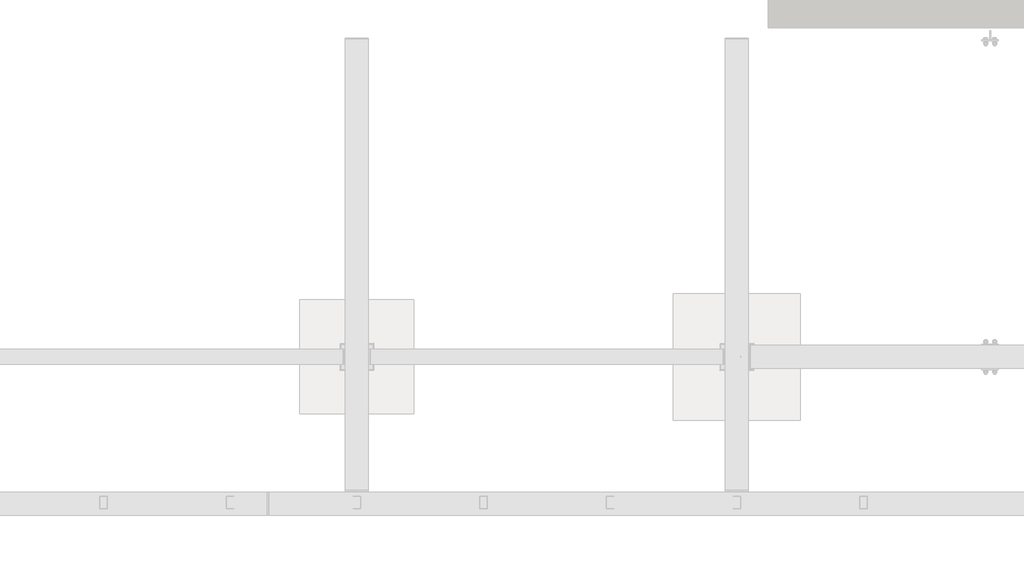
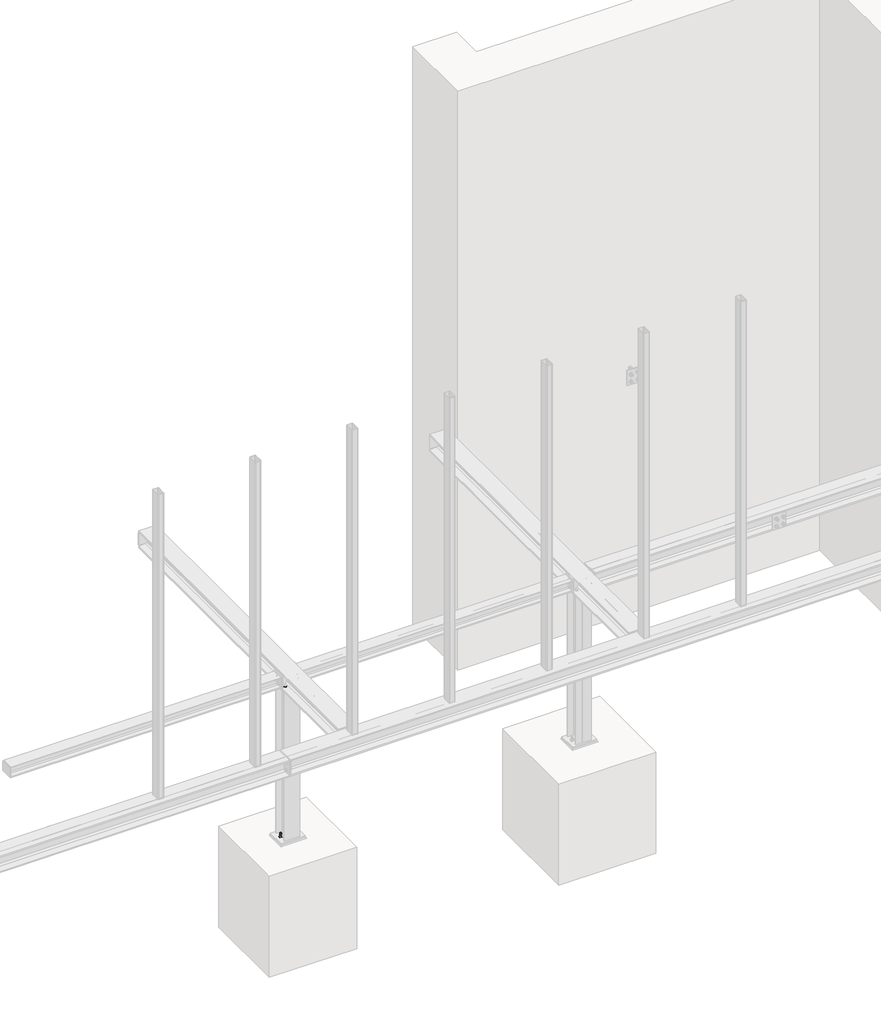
# One storey, part 24 of 31: 6 assemblies.
"""IFC4 building model written with IfcOpenShell, lengths in millimetres."""

from ifc_helpers import new_model, si_unit, point, frame, frame_2d, origin, place, context, project, spatial, polyline, circle_curve, trimmed, segment, composite_curve, outline, extrude, faceted_brep, element, save

model = new_model("IFC4")

# Units and contexts
model_context = context("Model", 3, world=origin())
ifc_project = project(units=[si_unit("LENGTHUNIT", "METRE", prefix="MILLI")], contexts=[model_context])

# Site, building, storey
site = spatial("IfcSite", under=ifc_project)
building = spatial("IfcBuilding", under=site)
storey = spatial("IfcBuildingStorey", under=building, Name="Základy", Elevation=-1200.0)

# Assemblies
placement = place(None, origin())
element("IfcElementAssembly", 1, at=placement, inside=storey, context=model_context, shape_type="SweptSolid", body=[
    extrude(outline(composite_curve([segment(polyline([(11073.6, 60.0), (11026.4, 60.0)]), True, "CONTINUOUS"), segment(trimmed(circle_curve(frame_2d((11026.4, 66.4)), 6.4), [point((11026.4, 60.0))], [point((11020.0, 66.4))], False, "CARTESIAN"), True, "CONTINUOUS"), segment(polyline([(11020.0, 66.4), (11020.0, 153.6)]), True, "CONTINUOUS"), segment(trimmed(circle_curve(frame_2d((11026.4, 153.6)), 6.4), [point((11020.0, 153.6))], [point((11026.4, 160.0))], False, "CARTESIAN"), True, "CONTINUOUS"), segment(polyline([(11026.4, 160.0), (11073.6, 160.0)]), True, "CONTINUOUS"), segment(trimmed(circle_curve(frame_2d((11073.6, 153.6)), 6.4), [point((11073.6, 160.0))], [point((11080.0, 153.6))], False, "CARTESIAN"), True, "CONTINUOUS"), segment(polyline([(11080.0, 153.6), (11080.0, 66.4)]), True, "CONTINUOUS"), segment(trimmed(circle_curve(frame_2d((11073.6, 66.4)), 6.4), [point((11080.0, 66.4))], [point((11073.6, 60.0))], False, "CARTESIAN"), True, "CONTINUOUS")], self_intersect=False), holes=[composite_curve([segment(trimmed(circle_curve(frame_2d((11073.6, 66.4)), 3.2), [point((11073.6, 63.2))], [point((11076.8, 66.4))], True, "CARTESIAN"), True, "CONTINUOUS"), segment(polyline([(11076.8, 66.4), (11076.8, 153.6)]), True, "CONTINUOUS"), segment(trimmed(circle_curve(frame_2d((11073.6, 153.6)), 3.2), [point((11076.8, 153.6))], [point((11073.6, 156.8))], True, "CARTESIAN"), True, "CONTINUOUS"), segment(polyline([(11073.6, 156.8), (11026.4, 156.8)]), True, "CONTINUOUS"), segment(trimmed(circle_curve(frame_2d((11026.4, 153.6)), 3.2), [point((11026.4, 156.8))], [point((11023.2, 153.6))], True, "CARTESIAN"), True, "CONTINUOUS"), segment(polyline([(11023.2, 153.6), (11023.2, 66.4)]), True, "CONTINUOUS"), segment(trimmed(circle_curve(frame_2d((11026.4, 66.4)), 3.2), [point((11023.2, 66.4))], [point((11026.4, 63.2))], True, "CARTESIAN"), True, "CONTINUOUS"), segment(polyline([(11026.4, 63.2), (11073.6, 63.2)]), True, "CONTINUOUS")], self_intersect=False)]), frame((0.0, 0.0, -160.0), z_axis=(0.0, 0.0, 1.0), x_axis=(1.0, 0.0, 0.0)), (0.0, 0.0, 1.0), 3320.0),
])
element("IfcElementAssembly", 2, at=placement, inside=storey, context=model_context, shape_type="SweptSolid", body=[
    extrude(outline(composite_curve([segment(polyline([(10073.6, 60.0), (10026.4, 60.0)]), True, "CONTINUOUS"), segment(trimmed(circle_curve(frame_2d((10026.4, 66.4)), 6.4), [point((10026.4, 60.0))], [point((10020.0, 66.4))], False, "CARTESIAN"), True, "CONTINUOUS"), segment(polyline([(10020.0, 66.4), (10020.0, 153.6)]), True, "CONTINUOUS"), segment(trimmed(circle_curve(frame_2d((10026.4, 153.6)), 6.4), [point((10020.0, 153.6))], [point((10026.4, 160.0))], False, "CARTESIAN"), True, "CONTINUOUS"), segment(polyline([(10026.4, 160.0), (10073.6, 160.0)]), True, "CONTINUOUS"), segment(trimmed(circle_curve(frame_2d((10073.6, 153.6)), 6.4), [point((10073.6, 160.0))], [point((10080.0, 153.6))], False, "CARTESIAN"), True, "CONTINUOUS"), segment(polyline([(10080.0, 153.6), (10080.0, 66.4)]), True, "CONTINUOUS"), segment(trimmed(circle_curve(frame_2d((10073.6, 66.4)), 6.4), [point((10080.0, 66.4))], [point((10073.6, 60.0))], False, "CARTESIAN"), True, "CONTINUOUS")], self_intersect=False), holes=[composite_curve([segment(trimmed(circle_curve(frame_2d((10073.6, 66.4)), 3.2), [point((10073.6, 63.2))], [point((10076.8, 66.4))], True, "CARTESIAN"), True, "CONTINUOUS"), segment(polyline([(10076.8, 66.4), (10076.8, 153.6)]), True, "CONTINUOUS"), segment(trimmed(circle_curve(frame_2d((10073.6, 153.6)), 3.2), [point((10076.8, 153.6))], [point((10073.6, 156.8))], True, "CARTESIAN"), True, "CONTINUOUS"), segment(polyline([(10073.6, 156.8), (10026.4, 156.8)]), True, "CONTINUOUS"), segment(trimmed(circle_curve(frame_2d((10026.4, 153.6)), 3.2), [point((10026.4, 156.8))], [point((10023.2, 153.6))], True, "CARTESIAN"), True, "CONTINUOUS"), segment(polyline([(10023.2, 153.6), (10023.2, 66.4)]), True, "CONTINUOUS"), segment(trimmed(circle_curve(frame_2d((10026.4, 66.4)), 3.2), [point((10023.2, 66.4))], [point((10026.4, 63.2))], True, "CARTESIAN"), True, "CONTINUOUS"), segment(polyline([(10026.4, 63.2), (10073.6, 63.2)]), True, "CONTINUOUS")], self_intersect=False)]), frame((0.0, 0.0, -160.0), z_axis=(0.0, 0.0, 1.0), x_axis=(1.0, 0.0, 0.0)), (0.0, 0.0, 1.0), 3320.0),
])
element("IfcElementAssembly", 3, at=placement, inside=storey, context=model_context, shape_type="SweptSolid", body=[
    extrude(outline(composite_curve([segment(polyline([(1200.0, -193.0), (1320.0, -193.0), (1320.0, -201.0), (1274.5, -201.0)]), True, "CONTINUOUS"), segment(trimmed(circle_curve(frame_2d((1274.5, -213.0)), 12.0), [point((1274.5, -201.0))], [point((1262.5, -213.0))], True, "CARTESIAN"), True, "CONTINUOUS"), segment(polyline([(1262.5, -213.0), (1262.5, -287.0)]), True, "CONTINUOUS"), segment(trimmed(circle_curve(frame_2d((1274.5, -287.0)), 12.0), [point((1262.5, -287.0))], [point((1274.5, -299.0))], True, "CARTESIAN"), True, "CONTINUOUS"), segment(polyline([(1274.5, -299.0), (1320.0, -299.0), (1320.0, -307.0), (1200.0, -307.0), (1200.0, -299.0), (1245.5, -299.0)]), True, "CONTINUOUS"), segment(trimmed(circle_curve(frame_2d((1245.5, -287.0)), 12.0), [point((1245.5, -299.0))], [point((1257.5, -287.0))], True, "CARTESIAN"), True, "CONTINUOUS"), segment(polyline([(1257.5, -287.0), (1257.5, -213.0)]), True, "CONTINUOUS"), segment(trimmed(circle_curve(frame_2d((1245.5, -213.0)), 12.0), [point((1257.5, -213.0))], [point((1245.5, -201.0))], True, "CARTESIAN"), True, "CONTINUOUS"), segment(polyline([(1245.5, -201.0), (1200.0, -201.0), (1200.0, -193.0)]), True, "CONTINUOUS")], self_intersect=False)), frame((9160.0, 0.0, 0.0), z_axis=(1.0, 0.0, 0.0), x_axis=(0.0, 1.0, 0.0)), (0.0, 0.0, 1.0), 2780.0),
    extrude(outline(polyline([(11940.0, 1200.0), (11940.0, 1320.0), (11950.0, 1320.0), (11950.0, 1200.0), (11940.0, 1200.0)])), frame((0.0, 0.0, -299.0), z_axis=(0.0, 0.0, 1.0), x_axis=(1.0, 0.0, 0.0)), (0.0, 0.0, 1.0), 98.0),
    extrude(outline(polyline([(9150.0, 1200.0), (9150.0, 1320.0), (9160.0, 1320.0), (9160.0, 1200.0), (9150.0, 1200.0)])), frame((0.0, 0.0, -299.0), z_axis=(0.0, 0.0, 1.0), x_axis=(1.0, 0.0, 0.0)), (0.0, 0.0, 1.0), 98.0),
])
element("IfcElementAssembly", 4, at=placement, inside=storey, context=model_context, shape_type="SweptSolid", body=[
    extrude(outline(composite_curve([segment(polyline([(9130.0, 1184.0), (8970.0, 1184.0), (8970.0, 1193.0), (9032.0, 1193.0)]), True, "CONTINUOUS"), segment(trimmed(circle_curve(frame_2d((9032.0, 1208.0)), 15.0), [point((9032.0, 1193.0))], [point((9047.0, 1208.0))], True, "CARTESIAN"), True, "CONTINUOUS"), segment(polyline([(9047.0, 1208.0), (9047.0, 1312.0)]), True, "CONTINUOUS"), segment(trimmed(circle_curve(frame_2d((9032.0, 1312.0)), 15.0), [point((9047.0, 1312.0))], [point((9032.0, 1327.0))], True, "CARTESIAN"), True, "CONTINUOUS"), segment(polyline([(9032.0, 1327.0), (8970.0, 1327.0), (8970.0, 1336.0), (9130.0, 1336.0), (9130.0, 1327.0), (9068.0, 1327.0)]), True, "CONTINUOUS"), segment(trimmed(circle_curve(frame_2d((9068.0, 1312.0)), 15.0), [point((9068.0, 1327.0))], [point((9053.0, 1312.0))], True, "CARTESIAN"), True, "CONTINUOUS"), segment(polyline([(9053.0, 1312.0), (9053.0, 1208.0)]), True, "CONTINUOUS"), segment(trimmed(circle_curve(frame_2d((9068.0, 1208.0)), 15.0), [point((9053.0, 1208.0))], [point((9068.0, 1193.0))], True, "CARTESIAN"), True, "CONTINUOUS"), segment(polyline([(9068.0, 1193.0), (9130.0, 1193.0), (9130.0, 1184.0)]), True, "CONTINUOUS")], self_intersect=False)), frame((0.0, 0.0, -1975.0), z_axis=(0.0, 0.0, 1.0), x_axis=(1.0, 0.0, 0.0)), (0.0, 0.0, 1.0), 1625.0),
    extrude(outline(polyline([(9175.0, 1356.0), (9175.0, 1164.0), (8925.0, 1164.0), (8925.0, 1356.0), (9175.0, 1356.0)])), frame((0.0, 0.0, -1990.0), z_axis=(0.0, 0.0, 1.0), x_axis=(1.0, 0.0, 0.0)), (0.0, 0.0, 1.0), 15.0),
    extrude(outline(polyline([(9140.0, 1346.0), (9140.0, 1174.0), (8960.0, 1174.0), (8960.0, 1346.0), (9140.0, 1346.0)])), frame((0.0, 0.0, -350.0), z_axis=(0.0, 0.0, 1.0), x_axis=(1.0, 0.0, 0.0)), (0.0, 0.0, 1.0), 10.0),
    extrude(outline(polyline([(8982.7364934, 1260.0), (8978.8682467, 1253.3000002), (8971.1317533, 1253.3000002), (8967.2635066, 1260.0), (8971.1317533, 1266.6999998), (8978.8682467, 1266.6999998), (8982.7364934, 1260.0)])), frame((0.0, 0.0, -2122.0), z_axis=(0.0, 0.0, 1.0), x_axis=(1.0, 0.0, 0.0)), (0.0, 0.0, 1.0), 132.0),
    extrude(outline(composite_curve([segment(trimmed(circle_curve(frame_2d((8975.0, 1260.0)), 8.0), [point((8983.0, 1260.0))], [point((8967.0, 1260.0))], False, "CARTESIAN"), True, "CONTINUOUS"), segment(trimmed(circle_curve(frame_2d((8975.0, 1260.0)), 8.0), [point((8967.0, 1260.0))], [point((8983.0, 1260.0))], False, "CARTESIAN"), True, "CONTINUOUS")], self_intersect=False)), frame((0.0, 0.0, -1990.0), z_axis=(0.0, 0.0, 1.0), x_axis=(1.0, 0.0, 0.0)), (0.0, 0.0, 1.0), 58.0),
    extrude(outline(composite_curve([segment(trimmed(circle_curve(frame_2d((8975.0, 1260.0)), 15.0), [point((8990.0, 1260.0))], [point((8960.0, 1260.0))], False, "CARTESIAN"), True, "CONTINUOUS"), segment(trimmed(circle_curve(frame_2d((8975.0, 1260.0)), 15.0), [point((8960.0, 1260.0))], [point((8990.0, 1260.0))], False, "CARTESIAN"), True, "CONTINUOUS")], self_intersect=False)), frame((0.0, 0.0, -1975.0), z_axis=(0.0, 0.0, 1.0), x_axis=(1.0, 0.0, 0.0)), (0.0, 0.0, 1.0), 3.0),
    extrude(outline(polyline([(8990.4441197, 1260.0), (8982.7220599, 1246.625), (8967.2779401, 1246.625), (8959.5558803, 1260.0), (8967.2779401, 1273.375), (8982.7220599, 1273.375), (8990.4441197, 1260.0)])), frame((0.0, 0.0, -1972.0), z_axis=(0.0, 0.0, 1.0), x_axis=(1.0, 0.0, 0.0)), (0.0, 0.0, 1.0), 13.0),
    extrude(outline(composite_curve([segment(trimmed(circle_curve(frame_2d((8975.0, 1260.0)), 9.0), [point((8984.0, 1260.0))], [point((8966.0, 1260.0))], False, "CARTESIAN"), True, "CONTINUOUS"), segment(trimmed(circle_curve(frame_2d((8975.0, 1260.0)), 9.0), [point((8966.0, 1260.0))], [point((8984.0, 1260.0))], False, "CARTESIAN"), True, "CONTINUOUS")], self_intersect=False)), frame((0.0, 0.0, -1990.0), z_axis=(0.0, 0.0, 1.0), x_axis=(1.0, 0.0, 0.0)), (0.0, 0.0, 1.0), 15.1),
    extrude(outline(polyline([(9132.7364934, 1260.0), (9128.8682467, 1253.3000002), (9121.1317533, 1253.3000002), (9117.2635066, 1260.0), (9121.1317533, 1266.6999998), (9128.8682467, 1266.6999998), (9132.7364934, 1260.0)])), frame((0.0, 0.0, -2122.0), z_axis=(0.0, 0.0, 1.0), x_axis=(1.0, 0.0, 0.0)), (0.0, 0.0, 1.0), 132.0),
    extrude(outline(composite_curve([segment(trimmed(circle_curve(frame_2d((9125.0, 1260.0)), 8.0), [point((9133.0, 1260.0))], [point((9117.0, 1260.0))], False, "CARTESIAN"), True, "CONTINUOUS"), segment(trimmed(circle_curve(frame_2d((9125.0, 1260.0)), 8.0), [point((9117.0, 1260.0))], [point((9133.0, 1260.0))], False, "CARTESIAN"), True, "CONTINUOUS")], self_intersect=False)), frame((0.0, 0.0, -1990.0), z_axis=(0.0, 0.0, 1.0), x_axis=(1.0, 0.0, 0.0)), (0.0, 0.0, 1.0), 58.0),
    extrude(outline(composite_curve([segment(trimmed(circle_curve(frame_2d((9125.0, 1260.0)), 15.0), [point((9140.0, 1260.0))], [point((9110.0, 1260.0))], False, "CARTESIAN"), True, "CONTINUOUS"), segment(trimmed(circle_curve(frame_2d((9125.0, 1260.0)), 15.0), [point((9110.0, 1260.0))], [point((9140.0, 1260.0))], False, "CARTESIAN"), True, "CONTINUOUS")], self_intersect=False)), frame((0.0, 0.0, -1975.0), z_axis=(0.0, 0.0, 1.0), x_axis=(1.0, 0.0, 0.0)), (0.0, 0.0, 1.0), 3.0),
    extrude(outline(polyline([(9140.4441197, 1260.0), (9132.7220599, 1246.625), (9117.2779401, 1246.625), (9109.5558803, 1260.0), (9117.2779401, 1273.375), (9132.7220599, 1273.375), (9140.4441197, 1260.0)])), frame((0.0, 0.0, -1972.0), z_axis=(0.0, 0.0, 1.0), x_axis=(1.0, 0.0, 0.0)), (0.0, 0.0, 1.0), 13.0),
    extrude(outline(composite_curve([segment(trimmed(circle_curve(frame_2d((9125.0, 1260.0)), 9.0), [point((9134.0, 1260.0))], [point((9116.0, 1260.0))], False, "CARTESIAN"), True, "CONTINUOUS"), segment(trimmed(circle_curve(frame_2d((9125.0, 1260.0)), 9.0), [point((9116.0, 1260.0))], [point((9134.0, 1260.0))], False, "CARTESIAN"), True, "CONTINUOUS")], self_intersect=False)), frame((0.0, 0.0, -1990.0), z_axis=(0.0, 0.0, 1.0), x_axis=(1.0, 0.0, 0.0)), (0.0, 0.0, 1.0), 15.1),
    extrude(outline(composite_curve([segment(trimmed(circle_curve(frame_2d((9000.0, 1220.0)), 6.5), [point((9006.5, 1220.0))], [point((8993.5, 1220.0))], False, "CARTESIAN"), True, "CONTINUOUS"), segment(trimmed(circle_curve(frame_2d((9000.0, 1220.0)), 6.5), [point((8993.5, 1220.0))], [point((9006.5, 1220.0))], False, "CARTESIAN"), True, "CONTINUOUS")], self_intersect=False)), frame((0.0, 0.0, -350.0), z_axis=(0.0, 0.0, 1.0), x_axis=(1.0, 0.0, 0.0)), (0.0, 0.0, 1.0), 10.1),
    extrude(outline(polyline([(9010.3923048, 1220.0), (9005.1961524, 1211.0), (8994.8038476, 1211.0), (8989.6076952, 1220.0), (8994.8038476, 1229.0), (9005.1961524, 1229.0), (9010.3923048, 1220.0)])), frame((0.0, 0.0, -323.5), z_axis=(0.0, 0.0, 1.0), x_axis=(1.0, 0.0, 0.0)), (0.0, 0.0, 1.0), 7.5),
    extrude(outline(composite_curve([segment(trimmed(circle_curve(frame_2d((9000.0, 1220.0)), 6.0), [point((9006.0, 1220.0))], [point((8994.0, 1220.0))], False, "CARTESIAN"), True, "CONTINUOUS"), segment(trimmed(circle_curve(frame_2d((9000.0, 1220.0)), 6.0), [point((8994.0, 1220.0))], [point((9006.0, 1220.0))], False, "CARTESIAN"), True, "CONTINUOUS")], self_intersect=False)), frame((0.0, 0.0, -368.5), z_axis=(0.0, 0.0, 1.0), x_axis=(1.0, 0.0, 0.0)), (0.0, 0.0, 1.0), 45.0),
    extrude(outline(composite_curve([segment(trimmed(circle_curve(frame_2d((9000.0, 1220.0)), 12.0), [point((9012.0, 1220.0))], [point((8988.0, 1220.0))], False, "CARTESIAN"), True, "CONTINUOUS"), segment(trimmed(circle_curve(frame_2d((9000.0, 1220.0)), 12.0), [point((8988.0, 1220.0))], [point((9012.0, 1220.0))], False, "CARTESIAN"), True, "CONTINUOUS")], self_intersect=False)), frame((0.0, 0.0, -326.0), z_axis=(0.0, 0.0, 1.0), x_axis=(1.0, 0.0, 0.0)), (0.0, 0.0, 1.0), 2.5),
    extrude(outline(composite_curve([segment(trimmed(circle_curve(frame_2d((9000.0, 1220.0)), 12.0), [point((9012.0, 1220.0))], [point((8988.0, 1220.0))], False, "CARTESIAN"), True, "CONTINUOUS"), segment(trimmed(circle_curve(frame_2d((9000.0, 1220.0)), 12.0), [point((8988.0, 1220.0))], [point((9012.0, 1220.0))], False, "CARTESIAN"), True, "CONTINUOUS")], self_intersect=False)), frame((0.0, 0.0, -352.5), z_axis=(0.0, 0.0, 1.0), x_axis=(1.0, 0.0, 0.0)), (0.0, 0.0, 1.0), 2.5),
    extrude(outline(polyline([(9010.9696551, 1220.0), (9005.4848276, 1210.5), (8994.5151724, 1210.5), (8989.0303449, 1220.0), (8994.5151724, 1229.5), (9005.4848276, 1229.5), (9010.9696551, 1220.0)])), frame((0.0, 0.0, -362.5), z_axis=(0.0, 0.0, 1.0), x_axis=(1.0, 0.0, 0.0)), (0.0, 0.0, 1.0), 10.0),
    extrude(outline(composite_curve([segment(trimmed(circle_curve(frame_2d((9000.0, 1220.0)), 6.5), [point((9006.5, 1220.0))], [point((8993.5, 1220.0))], False, "CARTESIAN"), True, "CONTINUOUS"), segment(trimmed(circle_curve(frame_2d((9000.0, 1220.0)), 6.5), [point((8993.5, 1220.0))], [point((9006.5, 1220.0))], False, "CARTESIAN"), True, "CONTINUOUS")], self_intersect=False)), frame((0.0, 0.0, -340.1), z_axis=(0.0, 0.0, 1.0), x_axis=(1.0, 0.0, 0.0)), (0.0, 0.0, 1.0), 14.0),
    extrude(outline(composite_curve([segment(trimmed(circle_curve(frame_2d((9100.0, 1220.0)), 6.5), [point((9106.5, 1220.0))], [point((9093.5, 1220.0))], False, "CARTESIAN"), True, "CONTINUOUS"), segment(trimmed(circle_curve(frame_2d((9100.0, 1220.0)), 6.5), [point((9093.5, 1220.0))], [point((9106.5, 1220.0))], False, "CARTESIAN"), True, "CONTINUOUS")], self_intersect=False)), frame((0.0, 0.0, -350.0), z_axis=(0.0, 0.0, 1.0), x_axis=(1.0, 0.0, 0.0)), (0.0, 0.0, 1.0), 10.1),
    extrude(outline(polyline([(9110.3923048, 1220.0), (9105.1961524, 1211.0), (9094.8038476, 1211.0), (9089.6076952, 1220.0), (9094.8038476, 1229.0), (9105.1961524, 1229.0), (9110.3923048, 1220.0)])), frame((0.0, 0.0, -323.5), z_axis=(0.0, 0.0, 1.0), x_axis=(1.0, 0.0, 0.0)), (0.0, 0.0, 1.0), 7.5),
    extrude(outline(composite_curve([segment(trimmed(circle_curve(frame_2d((9100.0, 1220.0)), 6.0), [point((9106.0, 1220.0))], [point((9094.0, 1220.0))], False, "CARTESIAN"), True, "CONTINUOUS"), segment(trimmed(circle_curve(frame_2d((9100.0, 1220.0)), 6.0), [point((9094.0, 1220.0))], [point((9106.0, 1220.0))], False, "CARTESIAN"), True, "CONTINUOUS")], self_intersect=False)), frame((0.0, 0.0, -368.5), z_axis=(0.0, 0.0, 1.0), x_axis=(1.0, 0.0, 0.0)), (0.0, 0.0, 1.0), 45.0),
    extrude(outline(composite_curve([segment(trimmed(circle_curve(frame_2d((9100.0, 1220.0)), 12.0), [point((9112.0, 1220.0))], [point((9088.0, 1220.0))], False, "CARTESIAN"), True, "CONTINUOUS"), segment(trimmed(circle_curve(frame_2d((9100.0, 1220.0)), 12.0), [point((9088.0, 1220.0))], [point((9112.0, 1220.0))], False, "CARTESIAN"), True, "CONTINUOUS")], self_intersect=False)), frame((0.0, 0.0, -326.0), z_axis=(0.0, 0.0, 1.0), x_axis=(1.0, 0.0, 0.0)), (0.0, 0.0, 1.0), 2.5),
    extrude(outline(composite_curve([segment(trimmed(circle_curve(frame_2d((9100.0, 1220.0)), 12.0), [point((9112.0, 1220.0))], [point((9088.0, 1220.0))], False, "CARTESIAN"), True, "CONTINUOUS"), segment(trimmed(circle_curve(frame_2d((9100.0, 1220.0)), 12.0), [point((9088.0, 1220.0))], [point((9112.0, 1220.0))], False, "CARTESIAN"), True, "CONTINUOUS")], self_intersect=False)), frame((0.0, 0.0, -352.5), z_axis=(0.0, 0.0, 1.0), x_axis=(1.0, 0.0, 0.0)), (0.0, 0.0, 1.0), 2.5),
    extrude(outline(polyline([(9110.9696551, 1220.0), (9105.4848276, 1210.5), (9094.5151724, 1210.5), (9089.0303449, 1220.0), (9094.5151724, 1229.5), (9105.4848276, 1229.5), (9110.9696551, 1220.0)])), frame((0.0, 0.0, -362.5), z_axis=(0.0, 0.0, 1.0), x_axis=(1.0, 0.0, 0.0)), (0.0, 0.0, 1.0), 10.0),
    extrude(outline(composite_curve([segment(trimmed(circle_curve(frame_2d((9100.0, 1220.0)), 6.5), [point((9106.5, 1220.0))], [point((9093.5, 1220.0))], False, "CARTESIAN"), True, "CONTINUOUS"), segment(trimmed(circle_curve(frame_2d((9100.0, 1220.0)), 6.5), [point((9093.5, 1220.0))], [point((9106.5, 1220.0))], False, "CARTESIAN"), True, "CONTINUOUS")], self_intersect=False)), frame((0.0, 0.0, -340.1), z_axis=(0.0, 0.0, 1.0), x_axis=(1.0, 0.0, 0.0)), (0.0, 0.0, 1.0), 14.0),
    extrude(outline(composite_curve([segment(trimmed(circle_curve(frame_2d((9000.0, 1300.0)), 6.5), [point((9006.5, 1300.0))], [point((8993.5, 1300.0))], False, "CARTESIAN"), True, "CONTINUOUS"), segment(trimmed(circle_curve(frame_2d((9000.0, 1300.0)), 6.5), [point((8993.5, 1300.0))], [point((9006.5, 1300.0))], False, "CARTESIAN"), True, "CONTINUOUS")], self_intersect=False)), frame((0.0, 0.0, -350.0), z_axis=(0.0, 0.0, 1.0), x_axis=(1.0, 0.0, 0.0)), (0.0, 0.0, 1.0), 10.1),
    extrude(outline(polyline([(9010.3923048, 1300.0), (9005.1961524, 1291.0), (8994.8038476, 1291.0), (8989.6076952, 1300.0), (8994.8038476, 1309.0), (9005.1961524, 1309.0), (9010.3923048, 1300.0)])), frame((0.0, 0.0, -323.5), z_axis=(0.0, 0.0, 1.0), x_axis=(1.0, 0.0, 0.0)), (0.0, 0.0, 1.0), 7.5),
    extrude(outline(composite_curve([segment(trimmed(circle_curve(frame_2d((9000.0, 1300.0)), 6.0), [point((9006.0, 1300.0))], [point((8994.0, 1300.0))], False, "CARTESIAN"), True, "CONTINUOUS"), segment(trimmed(circle_curve(frame_2d((9000.0, 1300.0)), 6.0), [point((8994.0, 1300.0))], [point((9006.0, 1300.0))], False, "CARTESIAN"), True, "CONTINUOUS")], self_intersect=False)), frame((0.0, 0.0, -368.5), z_axis=(0.0, 0.0, 1.0), x_axis=(1.0, 0.0, 0.0)), (0.0, 0.0, 1.0), 45.0),
    extrude(outline(composite_curve([segment(trimmed(circle_curve(frame_2d((9000.0, 1300.0)), 12.0), [point((9012.0, 1300.0))], [point((8988.0, 1300.0))], False, "CARTESIAN"), True, "CONTINUOUS"), segment(trimmed(circle_curve(frame_2d((9000.0, 1300.0)), 12.0), [point((8988.0, 1300.0))], [point((9012.0, 1300.0))], False, "CARTESIAN"), True, "CONTINUOUS")], self_intersect=False)), frame((0.0, 0.0, -326.0), z_axis=(0.0, 0.0, 1.0), x_axis=(1.0, 0.0, 0.0)), (0.0, 0.0, 1.0), 2.5),
    extrude(outline(composite_curve([segment(trimmed(circle_curve(frame_2d((9000.0, 1300.0)), 12.0), [point((9012.0, 1300.0))], [point((8988.0, 1300.0))], False, "CARTESIAN"), True, "CONTINUOUS"), segment(trimmed(circle_curve(frame_2d((9000.0, 1300.0)), 12.0), [point((8988.0, 1300.0))], [point((9012.0, 1300.0))], False, "CARTESIAN"), True, "CONTINUOUS")], self_intersect=False)), frame((0.0, 0.0, -352.5), z_axis=(0.0, 0.0, 1.0), x_axis=(1.0, 0.0, 0.0)), (0.0, 0.0, 1.0), 2.5),
    extrude(outline(polyline([(9010.9696551, 1300.0), (9005.4848276, 1290.5), (8994.5151724, 1290.5), (8989.0303449, 1300.0), (8994.5151724, 1309.5), (9005.4848276, 1309.5), (9010.9696551, 1300.0)])), frame((0.0, 0.0, -362.5), z_axis=(0.0, 0.0, 1.0), x_axis=(1.0, 0.0, 0.0)), (0.0, 0.0, 1.0), 10.0),
    extrude(outline(composite_curve([segment(trimmed(circle_curve(frame_2d((9000.0, 1300.0)), 6.5), [point((9006.5, 1300.0))], [point((8993.5, 1300.0))], False, "CARTESIAN"), True, "CONTINUOUS"), segment(trimmed(circle_curve(frame_2d((9000.0, 1300.0)), 6.5), [point((8993.5, 1300.0))], [point((9006.5, 1300.0))], False, "CARTESIAN"), True, "CONTINUOUS")], self_intersect=False)), frame((0.0, 0.0, -340.1), z_axis=(0.0, 0.0, 1.0), x_axis=(1.0, 0.0, 0.0)), (0.0, 0.0, 1.0), 14.0),
    extrude(outline(composite_curve([segment(trimmed(circle_curve(frame_2d((9100.0, 1300.0)), 6.5), [point((9106.5, 1300.0))], [point((9093.5, 1300.0))], False, "CARTESIAN"), True, "CONTINUOUS"), segment(trimmed(circle_curve(frame_2d((9100.0, 1300.0)), 6.5), [point((9093.5, 1300.0))], [point((9106.5, 1300.0))], False, "CARTESIAN"), True, "CONTINUOUS")], self_intersect=False)), frame((0.0, 0.0, -350.0), z_axis=(0.0, 0.0, 1.0), x_axis=(1.0, 0.0, 0.0)), (0.0, 0.0, 1.0), 10.1),
    extrude(outline(polyline([(9110.3923048, 1300.0), (9105.1961524, 1291.0), (9094.8038476, 1291.0), (9089.6076952, 1300.0), (9094.8038476, 1309.0), (9105.1961524, 1309.0), (9110.3923048, 1300.0)])), frame((0.0, 0.0, -323.5), z_axis=(0.0, 0.0, 1.0), x_axis=(1.0, 0.0, 0.0)), (0.0, 0.0, 1.0), 7.5),
    extrude(outline(composite_curve([segment(trimmed(circle_curve(frame_2d((9100.0, 1300.0)), 6.0), [point((9106.0, 1300.0))], [point((9094.0, 1300.0))], False, "CARTESIAN"), True, "CONTINUOUS"), segment(trimmed(circle_curve(frame_2d((9100.0, 1300.0)), 6.0), [point((9094.0, 1300.0))], [point((9106.0, 1300.0))], False, "CARTESIAN"), True, "CONTINUOUS")], self_intersect=False)), frame((0.0, 0.0, -368.5), z_axis=(0.0, 0.0, 1.0), x_axis=(1.0, 0.0, 0.0)), (0.0, 0.0, 1.0), 45.0),
    extrude(outline(composite_curve([segment(trimmed(circle_curve(frame_2d((9100.0, 1300.0)), 12.0), [point((9112.0, 1300.0))], [point((9088.0, 1300.0))], False, "CARTESIAN"), True, "CONTINUOUS"), segment(trimmed(circle_curve(frame_2d((9100.0, 1300.0)), 12.0), [point((9088.0, 1300.0))], [point((9112.0, 1300.0))], False, "CARTESIAN"), True, "CONTINUOUS")], self_intersect=False)), frame((0.0, 0.0, -326.0), z_axis=(0.0, 0.0, 1.0), x_axis=(1.0, 0.0, 0.0)), (0.0, 0.0, 1.0), 2.5),
    extrude(outline(composite_curve([segment(trimmed(circle_curve(frame_2d((9100.0, 1300.0)), 12.0), [point((9112.0, 1300.0))], [point((9088.0, 1300.0))], False, "CARTESIAN"), True, "CONTINUOUS"), segment(trimmed(circle_curve(frame_2d((9100.0, 1300.0)), 12.0), [point((9088.0, 1300.0))], [point((9112.0, 1300.0))], False, "CARTESIAN"), True, "CONTINUOUS")], self_intersect=False)), frame((0.0, 0.0, -352.5), z_axis=(0.0, 0.0, 1.0), x_axis=(1.0, 0.0, 0.0)), (0.0, 0.0, 1.0), 2.5),
    extrude(outline(polyline([(9110.9696551, 1300.0), (9105.4848276, 1290.5), (9094.5151724, 1290.5), (9089.0303449, 1300.0), (9094.5151724, 1309.5), (9105.4848276, 1309.5), (9110.9696551, 1300.0)])), frame((0.0, 0.0, -362.5), z_axis=(0.0, 0.0, 1.0), x_axis=(1.0, 0.0, 0.0)), (0.0, 0.0, 1.0), 10.0),
    extrude(outline(composite_curve([segment(trimmed(circle_curve(frame_2d((9100.0, 1300.0)), 6.5), [point((9106.5, 1300.0))], [point((9093.5, 1300.0))], False, "CARTESIAN"), True, "CONTINUOUS"), segment(trimmed(circle_curve(frame_2d((9100.0, 1300.0)), 6.5), [point((9093.5, 1300.0))], [point((9106.5, 1300.0))], False, "CARTESIAN"), True, "CONTINUOUS")], self_intersect=False)), frame((0.0, 0.0, -340.1), z_axis=(0.0, 0.0, 1.0), x_axis=(1.0, 0.0, 0.0)), (0.0, 0.0, 1.0), 14.0),
])
element("IfcElementAssembly", 5, at=placement, inside=storey, context=model_context, shape_type="SweptSolid", body=[
    extrude(outline(polyline([(9500.0, 1710.0), (9500.0, 810.0), (8600.0, 810.0), (8600.0, 1710.0), (9500.0, 1710.0)])), frame((0.0, 0.0, -3100.0), z_axis=(0.0, 0.0, 1.0), x_axis=(1.0, 0.0, 0.0)), (0.0, 0.0, 1.0), 1100.0),
])
element("IfcElementAssembly", 6, at=placement, inside=storey, context=model_context, shape_type="Brep", body=[
    faceted_brep([(8925.0, 1356.0, -1990.0), (8925.0, 1164.0, -1990.0), (9175.0, 1164.0, -1990.0), (9175.0, 1356.0, -1990.0), (9185.0, 1154.0, -2000.0), (8915.0, 1154.0, -2000.0), (8915.0, 1366.0, -2000.0), (9185.0, 1366.0, -2000.0)], [[[0, 1, 2, 3]], [[4, 5, 6, 7]], [[5, 4, 2, 1]], [[1, 0, 6, 5]], [[7, 6, 0, 3]], [[3, 2, 4, 7]]]),
])

save(model, "model.ifc")
